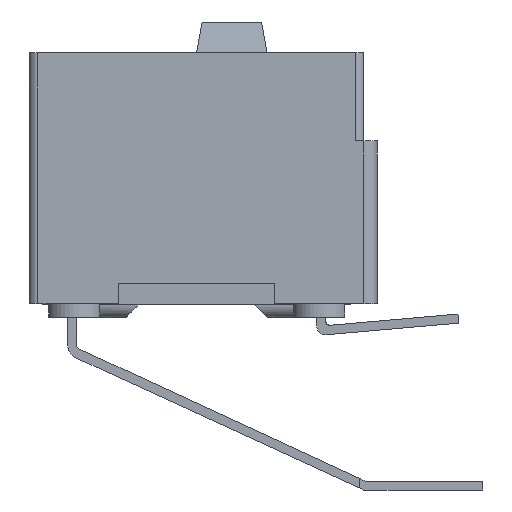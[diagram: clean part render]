
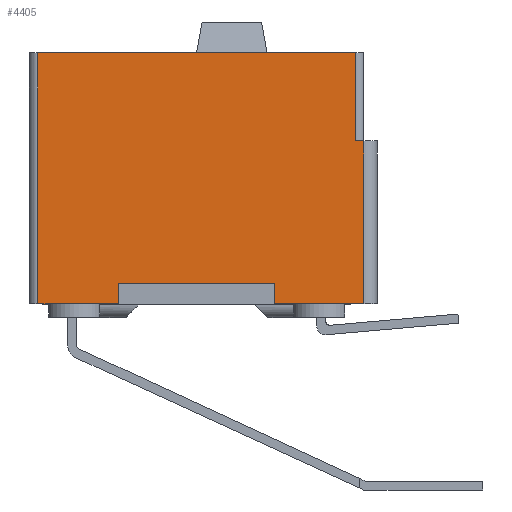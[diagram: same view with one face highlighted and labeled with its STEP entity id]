
A CAD part, left-side view. The second image highlights one B-rep face of the part: STEP entity #4405.
In plain terms, the highlighted planar face has unit normal (-1, 0, 0).
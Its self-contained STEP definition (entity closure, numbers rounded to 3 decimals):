
#108 = VECTOR ( 'NONE', #1641, 1000. ) ;
#273 = ORIENTED_EDGE ( 'NONE', *, *, #18221, .F. ) ;
#322 = EDGE_CURVE ( 'NONE', #10305, #3537, #21742, .T. ) ;
#840 = CARTESIAN_POINT ( 'NONE',  ( 0., -9.652, -2.54 ) ) ;
#1139 = ORIENTED_EDGE ( 'NONE', *, *, #17216, .T. ) ;
#1214 = CARTESIAN_POINT ( 'NONE',  ( 0., -0.25, -7.239 ) ) ;
#1526 = CARTESIAN_POINT ( 'NONE',  ( 0., -0.25, -7.239 ) ) ;
#1629 = CARTESIAN_POINT ( 'NONE',  ( 0., -0.25, -7.239 ) ) ;
#1641 = DIRECTION ( 'NONE',  ( 0., 1., 0. ) ) ;
#1887 = CARTESIAN_POINT ( 'NONE',  ( 0., -0.25, -7.239 ) ) ;
#2128 = CARTESIAN_POINT ( 'NONE',  ( 0., -9.652, -2.54 ) ) ;
#2213 = EDGE_CURVE ( 'NONE', #8495, #26826, #7344, .T. ) ;
#2281 = VECTOR ( 'NONE', #23320, 1000. ) ;
#2485 = ORIENTED_EDGE ( 'NONE', *, *, #6206, .T. ) ;
#3265 = VECTOR ( 'NONE', #19981, 1000. ) ;
#3457 = CARTESIAN_POINT ( 'NONE',  ( 0., -0.25, -7.239 ) ) ;
#3509 = LINE ( 'NONE', #22221, #3265 ) ;
#3518 = ORIENTED_EDGE ( 'NONE', *, *, #2213, .T. ) ;
#3537 = VERTEX_POINT ( 'NONE', #7600 ) ;
#3703 = ORIENTED_EDGE ( 'NONE', *, *, #322, .T. ) ;
#3871 = CARTESIAN_POINT ( 'NONE',  ( 0., -7.076, -7.239 ) ) ;
#4340 = ORIENTED_EDGE ( 'NONE', *, *, #12354, .T. ) ;
#4405 = ADVANCED_FACE ( 'NONE', ( #16963 ), #26642, .T. ) ;
#4518 = EDGE_CURVE ( 'NONE', #10669, #11778, #7961, .T. ) ;
#4715 = VECTOR ( 'NONE', #21885, 1000. ) ;
#4772 = VECTOR ( 'NONE', #8696, 1000. ) ;
#5402 = ORIENTED_EDGE ( 'NONE', *, *, #29180, .F. ) ;
#6206 = EDGE_CURVE ( 'NONE', #10669, #20394, #22396, .T. ) ;
#6410 = CARTESIAN_POINT ( 'NONE',  ( 0., -0.25, 0. ) ) ;
#6704 = CARTESIAN_POINT ( 'NONE',  ( 0., -9.402, -2.54 ) ) ;
#6711 = DIRECTION ( 'NONE',  ( 0., 0., -1. ) ) ;
#6776 = LINE ( 'NONE', #9311, #11837 ) ;
#6964 = ORIENTED_EDGE ( 'NONE', *, *, #4518, .F. ) ;
#7344 = LINE ( 'NONE', #29481, #21971 ) ;
#7531 = VECTOR ( 'NONE', #24280, 1000. ) ;
#7600 = CARTESIAN_POINT ( 'NONE',  ( 0., -9.652, -7.239 ) ) ;
#7917 = ORIENTED_EDGE ( 'NONE', *, *, #7965, .F. ) ;
#7961 = LINE ( 'NONE', #3457, #14383 ) ;
#7965 = EDGE_CURVE ( 'NONE', #23375, #27226, #10495, .T. ) ;
#8495 = VERTEX_POINT ( 'NONE', #6704 ) ;
#8539 = CARTESIAN_POINT ( 'NONE',  ( 0., -7.076, -6.639 ) ) ;
#8696 = DIRECTION ( 'NONE',  ( 0., -1., 0. ) ) ;
#8983 = ORIENTED_EDGE ( 'NONE', *, *, #21255, .T. ) ;
#9311 = CARTESIAN_POINT ( 'NONE',  ( 0., -7.076, -6.639 ) ) ;
#9725 = VECTOR ( 'NONE', #10703, 1000. ) ;
#9992 = LINE ( 'NONE', #840, #2281 ) ;
#10305 = VERTEX_POINT ( 'NONE', #25797 ) ;
#10436 = ORIENTED_EDGE ( 'NONE', *, *, #19513, .T. ) ;
#10495 = LINE ( 'NONE', #26933, #108 ) ;
#10656 = DIRECTION ( 'NONE',  ( -1., 0., 0. ) ) ;
#10669 = VERTEX_POINT ( 'NONE', #1629 ) ;
#10703 = DIRECTION ( 'NONE',  ( 0., -1., 0. ) ) ;
#11778 = VERTEX_POINT ( 'NONE', #6410 ) ;
#11837 = VECTOR ( 'NONE', #27839, 1000. ) ;
#12354 = EDGE_CURVE ( 'NONE', #25971, #10305, #15785, .T. ) ;
#12896 = DIRECTION ( 'NONE',  ( 0., 0., 1. ) ) ;
#12952 = CARTESIAN_POINT ( 'NONE',  ( 0., -2.576, -6.639 ) ) ;
#13100 = LINE ( 'NONE', #29077, #9725 ) ;
#13504 = CARTESIAN_POINT ( 'NONE',  ( 0., -0.25, -7.239 ) ) ;
#14383 = VECTOR ( 'NONE', #12896, 1000. ) ;
#15785 = LINE ( 'NONE', #1526, #7531 ) ;
#16638 = EDGE_CURVE ( 'NONE', #27226, #27619, #27200, .T. ) ;
#16963 = FACE_OUTER_BOUND ( 'NONE', #24623, .T. ) ;
#17216 = EDGE_CURVE ( 'NONE', #23375, #25971, #6776, .T. ) ;
#18221 = EDGE_CURVE ( 'NONE', #24150, #3537, #9992, .T. ) ;
#18741 = DIRECTION ( 'NONE',  ( 0., 0., 1. ) ) ;
#19513 = EDGE_CURVE ( 'NONE', #24150, #8495, #3509, .T. ) ;
#19625 = AXIS2_PLACEMENT_3D ( 'NONE', #28730, #10656, #22169 ) ;
#19981 = DIRECTION ( 'NONE',  ( 0., 1., 0. ) ) ;
#20394 = VERTEX_POINT ( 'NONE', #27510 ) ;
#20627 = CARTESIAN_POINT ( 'NONE',  ( 0., -2.576, -6.639 ) ) ;
#21255 = EDGE_CURVE ( 'NONE', #20394, #27619, #29470, .T. ) ;
#21742 = LINE ( 'NONE', #1214, #4715 ) ;
#21885 = DIRECTION ( 'NONE',  ( 0., -1., 0. ) ) ;
#21971 = VECTOR ( 'NONE', #18741, 1000. ) ;
#22169 = DIRECTION ( 'NONE',  ( 0., -1., 0. ) ) ;
#22221 = CARTESIAN_POINT ( 'NONE',  ( 0., -9.402, -2.54 ) ) ;
#22262 = VECTOR ( 'NONE', #6711, 1000. ) ;
#22396 = LINE ( 'NONE', #1887, #24326 ) ;
#22638 = CARTESIAN_POINT ( 'NONE',  ( 0., -2.576, -7.239 ) ) ;
#23320 = DIRECTION ( 'NONE',  ( 0., 0., -1. ) ) ;
#23375 = VERTEX_POINT ( 'NONE', #8539 ) ;
#23969 = ORIENTED_EDGE ( 'NONE', *, *, #16638, .F. ) ;
#24150 = VERTEX_POINT ( 'NONE', #2128 ) ;
#24280 = DIRECTION ( 'NONE',  ( 0., -1., 0. ) ) ;
#24326 = VECTOR ( 'NONE', #29265, 1000. ) ;
#24623 = EDGE_LOOP ( 'NONE', ( #23969, #7917, #1139, #4340, #3703, #273, #10436, #3518, #5402, #6964, #2485, #8983 ) ) ;
#25797 = CARTESIAN_POINT ( 'NONE',  ( 0., -8.357, -7.239 ) ) ;
#25921 = CARTESIAN_POINT ( 'NONE',  ( 0., -9.402, 0. ) ) ;
#25971 = VERTEX_POINT ( 'NONE', #3871 ) ;
#26642 = PLANE ( 'NONE',  #19625 ) ;
#26826 = VERTEX_POINT ( 'NONE', #25921 ) ;
#26933 = CARTESIAN_POINT ( 'NONE',  ( 0., -2.576, -6.639 ) ) ;
#27200 = LINE ( 'NONE', #20627, #22262 ) ;
#27226 = VERTEX_POINT ( 'NONE', #12952 ) ;
#27510 = CARTESIAN_POINT ( 'NONE',  ( 0., -1.295, -7.239 ) ) ;
#27619 = VERTEX_POINT ( 'NONE', #22638 ) ;
#27839 = DIRECTION ( 'NONE',  ( 0., 0., -1. ) ) ;
#28730 = CARTESIAN_POINT ( 'NONE',  ( 0., -0.25, -7.239 ) ) ;
#29077 = CARTESIAN_POINT ( 'NONE',  ( 0., -0.25, 0. ) ) ;
#29180 = EDGE_CURVE ( 'NONE', #11778, #26826, #13100, .T. ) ;
#29265 = DIRECTION ( 'NONE',  ( 0., -1., 0. ) ) ;
#29470 = LINE ( 'NONE', #13504, #4772 ) ;
#29481 = CARTESIAN_POINT ( 'NONE',  ( 0., -9.402, -7.239 ) ) ;
